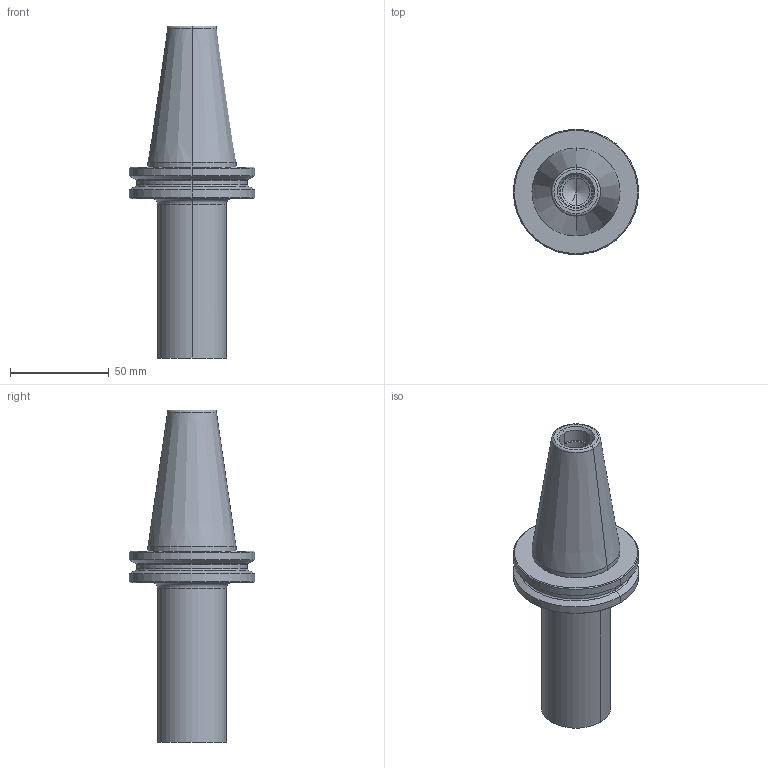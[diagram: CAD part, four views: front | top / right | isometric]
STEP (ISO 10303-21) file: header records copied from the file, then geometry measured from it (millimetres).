
FILE_DESCRIPTION(('no description'),'unknown implementation level');
FILE_NAME('solidR22LebozcadED_QyBdnq7tMaT2I_1.STP',' ',('CIMSOURCE GmbH'),('CADClick - KiM GmbH - www.kimweb.de'),'unknown preprocess','ACIS','unknown authorization');
FILE_SCHEMA(('automotive_design'));
Length unit declared in the file: millimetre
Products named in the file (1): NOCUT
Bounding box: 63.55 x 63.55 x 168.4 mm (x, y, z)
Volume: 183672.5 mm3; surface area: 29066.9 mm2
Topology: 1 solids, 1 shells, 70 faces, 152 edges, 89 vertices
Faces by surface type: cylinder 29, cone 20, plane 13, torus 8
Entity records: 3901 total; most frequent: CARTESIAN_POINT 563, DIRECTION 361, STYLED_ITEM 310, PRESENTATION_STYLE_ASSIGNMENT 310, COLOUR_RGB 310, ORIENTED_EDGE 300, AXIS2_PLACEMENT_3D 152, EDGE_CURVE 150
